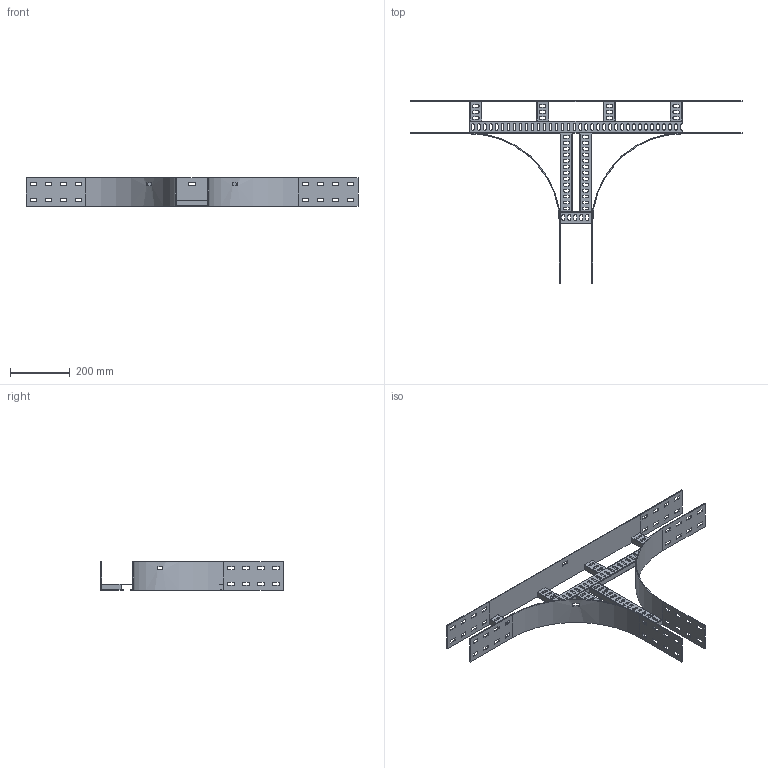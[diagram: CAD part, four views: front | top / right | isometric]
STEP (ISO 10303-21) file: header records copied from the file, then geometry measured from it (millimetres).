
FILE_DESCRIPTION(/* description */ ('','CAx-IF Rec.Pracs.---Representation and Presentation of Product Manufacturing Information (PMI)---4.0---2014-10-13'),/* implementation_level */ '2;1');
FILE_NAME(/* name */ 'Eurostrut_EET100-100-300_T-Piece for Cable Ladder ECL.step',/* time_stamp */ '2026-09-03T15:49:49+02:00',/* author */ (''),/* organization */ (''),/* preprocessor_version */ 'ST-DEVELOPER v20.1',/* originating_system */ 'Autodesk Revit 2027 27.2.0.39',/* authorisation */ '');
FILE_SCHEMA (('AP242_MANAGED_MODEL_BASED_3D_ENGINEERING_MIM_LF { 1 0 10303 442 2 1 4 }'));
Length unit declared in the file: millimetre
Products named in the file (9): TopLevelAssembly; Sweep; Sweep_1; Eurostrut_Cable Ladder_Rung_With slots; Eurostrut_Cable Ladder_Rung_With slots_1; Eurostrut_Cable Ladder_Rung Array Straight_Slotted; Eurostrut_Cable Ladder_Rung Array Straight_Slotted_1; Sweep_2; Eurostrut_Cable Ladder_Accessory End_54-94-142
Assembly tree (13 placements, depth 2):
  TopLevelAssembly
    Sweep
    Sweep_1
    Eurostrut_Cable Ladder_Rung_With slots
    Eurostrut_Cable Ladder_Rung_With slots_1
    Eurostrut_Cable Ladder_Rung Array Straight_Slotted
    Eurostrut_Cable Ladder_Rung Array Straight_Slotted_1
    Sweep_2
    Eurostrut_Cable Ladder_Accessory End_54-94-142  x6
Bounding box: 1111 x 611 x 94.04 mm (x, y, z)
Volume: 965367.9 mm3; surface area: 820419.8 mm2
Topology: 17 solids, 17 shells, 718 faces, 2052 edges, 1368 vertices
Faces by surface type: plane 524, bspline 158, cylinder 36
Entity records: 22214 total; most frequent: CARTESIAN_POINT 7904, ORIENTED_EDGE 3024, DIRECTION 2692, EDGE_CURVE 1512, LINE 1116, VECTOR 1116, VERTEX_POINT 1008, AXIS2_PLACEMENT_3D 788
